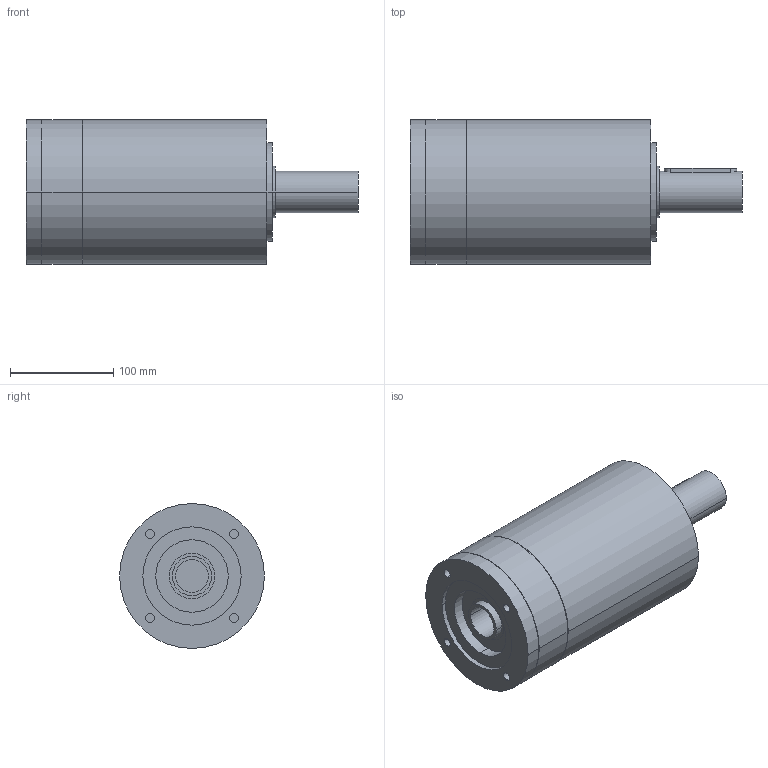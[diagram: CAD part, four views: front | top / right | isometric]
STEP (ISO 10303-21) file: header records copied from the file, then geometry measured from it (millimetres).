
FILE_DESCRIPTION(('CoCreate Modeling STEP Export'),'2;1');
FILE_NAME('GPR150_ig-9-12-16-20-28-35_40_B14_32_P03.stp','2014-08-19T17:03:58',(''),(''),'CoCreate Modeling STEP processor for AP214 (Solid Model)','CoCreate Modeling 16.00C 25-Feb-2009 (C) Parametric Technology GmbH','');
FILE_SCHEMA(('AUTOMOTIVE_DESIGN { 1 0 10303 214 1 1 1 1 }'));
Length unit declared in the file: millimetre
Products named in the file (2): GPR150_ig-9-12-16-20-28-35_40_B14_32_P03
Assembly tree (1 placements, depth 2):
  GPR150_ig-9-12-16-20-28-35_40_B14_32_P03
    GPR150_ig-9-12-16-20-28-35_40_B14_32_P03
Bounding box: 321 x 140 x 140 mm (x, y, z)
Volume: 3585428.6 mm3; surface area: 166432.2 mm2
Topology: 1 solids, 1 shells, 83 faces, 205 edges, 145 vertices
Faces by surface type: cylinder 50, plane 27, cone 6
Entity records: 2100 total; most frequent: ORIENTED_EDGE 406, CARTESIAN_POINT 400, DIRECTION 272, EDGE_CURVE 203, VERTEX_POINT 145, EDGE_LOOP 106, AXIS2_PLACEMENT_3D 105, FACE_OUTER_BOUND 83
